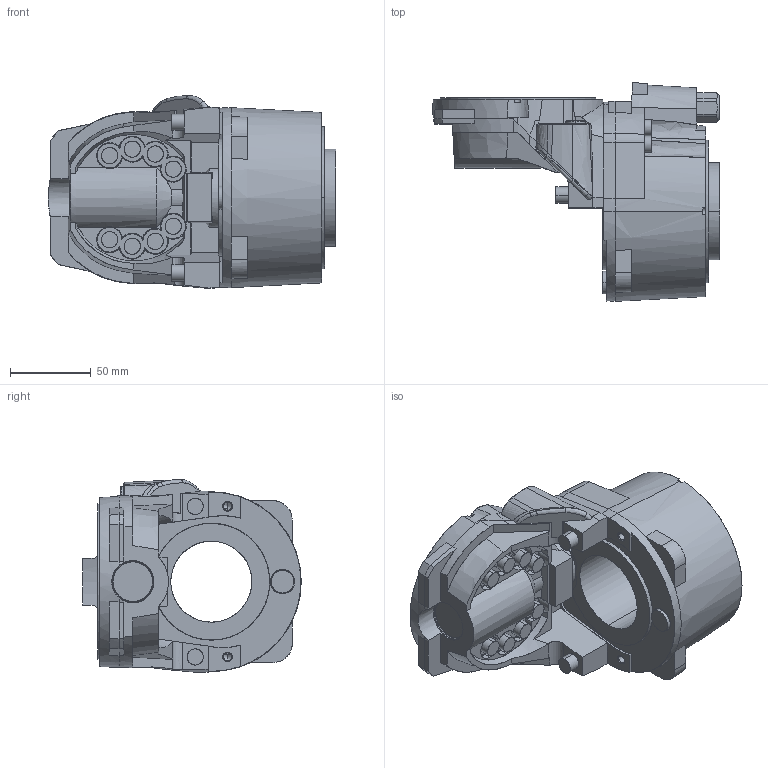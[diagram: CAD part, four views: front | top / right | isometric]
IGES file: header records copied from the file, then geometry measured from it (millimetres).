
Start section: SolidWorks IGES file using analytic representation for surfaces
Global section: file name: C:\Users\CNYUGAO6\Desktop\web model\IRB1660ID_4-155_IRC5_rev0_LINK5.IGS; native system: SolidWorks 2014; preprocessor: SolidWorks 2014; author: CNYUGAO6; date: 160905.132641; units: millimetre
Bounding box: 177.26 x 135.01 x 119.14 mm (x, y, z)
Surface area: 110065.7 mm2 (no closed solid volume)
Topology: 0 solids, 0 shells, 403 faces, 5418 edges, 5410 vertices
Faces by surface type: bspline 222, revolution 181
